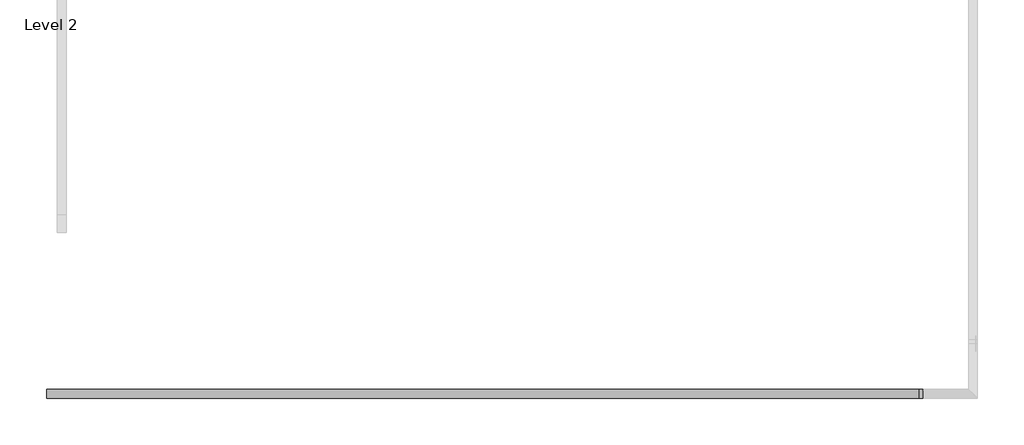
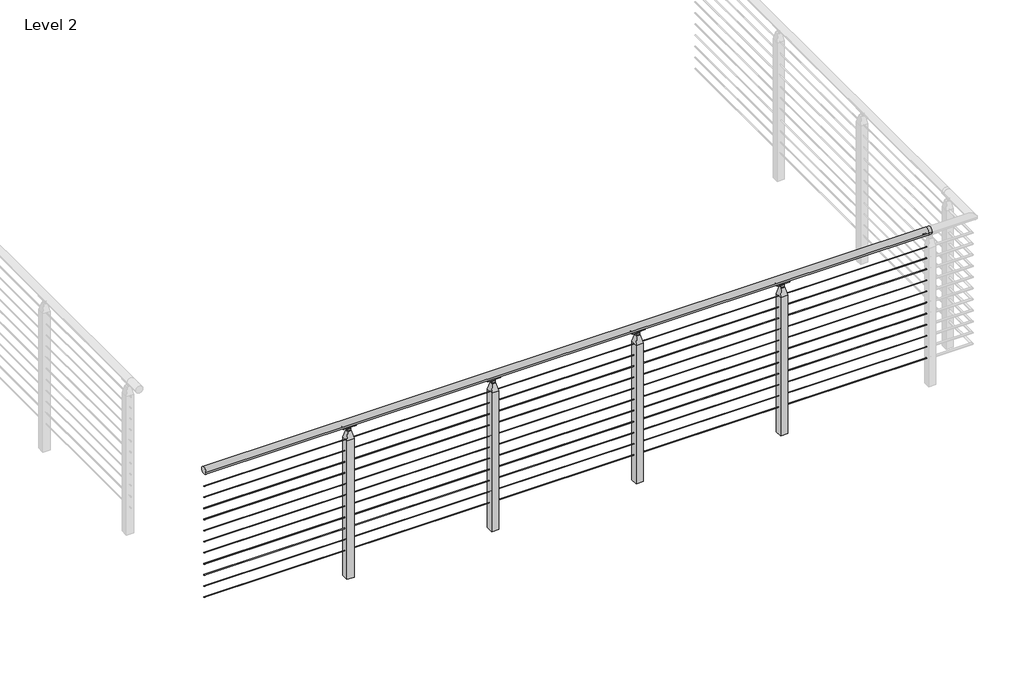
# One storey, part 11 of 17: 1 railing.
"""IFC4 building model written with IfcOpenShell, lengths in millimetres."""

from ifc_helpers import new_model, si_unit, point, frame, frame_2d, origin, place, context, project, spatial, polyline, circle_curve, trimmed, segment, composite_curve, outline, extrude, faceted_brep, element, save
from ifc_brep_helpers import plane_surface, cylinder_surface, revolved_surface, advanced_brep

model = new_model("IFC4")

# Units and contexts
model_context = context("Model", 3, world=origin())
ifc_project = project(units=[si_unit("LENGTHUNIT", "METRE", prefix="MILLI")], contexts=[model_context])

# Site, building, storey
site = spatial("IfcSite", under=ifc_project)
building = spatial("IfcBuilding", under=site)
storey = spatial("IfcBuildingStorey", under=building, Name="Level 2", Elevation=3048.0)

# Railing
placement = place(None, origin())
element("IfcRailing", 1, ObjectType="VIVA-CUBE-Cable-Weld Mount-Straight", at=placement, inside=storey, context=model_context, shape_type="SolidModel", body=[
    advanced_brep(
    [(41115.9167764, -52244.4426165, 4102.1), (41115.9167764, -52193.6426165, 4102.1), (46195.9167764, -52244.4426165, 4102.1), (46195.9167764, -52193.6426165, 4102.1), (46220.9199014, -52244.4426165, 4102.1), (46220.9199014, -52193.6426165, 4102.1)],
    [
        (0, 1, circle_curve(frame((41115.9167764, -52219.0426165, 4102.1), z_axis=(-1.0, 0.0, 0.0), x_axis=(0.0, 1.0, 0.0)), 25.4)),
        (1, 0, circle_curve(frame((41115.9167764, -52219.0426165, 4102.1), z_axis=(-1.0, 0.0, 0.0), x_axis=(0.0, 1.0, 0.0)), 25.4)),
        (0, 2),
        (2, 3, circle_curve(frame((46195.9167764, -52219.0426165, 4102.1), z_axis=(-1.0, 0.0, 0.0), x_axis=(0.0, 1.0, 0.0)), 25.4)),
        (3, 1),
        (3, 2, circle_curve(frame((46195.9167764, -52219.0426165, 4102.1), z_axis=(-1.0, 0.0, 0.0), x_axis=(0.0, 1.0, 0.0)), 25.4)),
        (4, 5, circle_curve(frame((46220.9199014, -52219.0426165, 4102.1), z_axis=(1.0, 0.0, 0.0), x_axis=(0.0, 1.0, 0.0)), 25.4)),
        (5, 4, circle_curve(frame((46220.9199014, -52219.0426165, 4102.1), z_axis=(1.0, 0.0, 0.0), x_axis=(0.0, 1.0, 0.0)), 25.4)),
        (2, 4),
        (5, 3),
    ],
    [
        plane_surface(frame((41115.9167764, -52219.0426165, 4127.5), z_axis=(-1.0, 0.0, 0.0), x_axis=(0.0, 1.0, 0.0))),
        cylinder_surface(frame((41115.9167764, -52219.0426165, 4102.1), z_axis=(-1.0, 0.0, 0.0), x_axis=(0.0, 1.0, 0.0)), 25.4),
        plane_surface(frame((46220.9199014, -52219.0426165, 4127.5), z_axis=(1.0, 0.0, 0.0), x_axis=(0.0, 1.0, 0.0))),
        cylinder_surface(frame((46195.9167764, -52219.0426165, 4102.1), z_axis=(-1.0, 0.0, 0.0), x_axis=(0.0, 1.0, 0.0)), 25.4),
    ],
    [
        (0, [[1, 2]]),
        (1, [[-1, 3, 4, 5]]),
        (1, [[-2, -5, 6, -3]]),
        (2, [[7, 8]]),
        (3, [[-4, 9, -8, 10]]),
        (3, [[-6, -10, -7, -9]]),
    ],
),
    extrude(outline(composite_curve([segment(trimmed(circle_curve(frame_2d((-52219.0426165, 3985.4124)), 2.3876), [point((-52216.6550165, 3985.4124))], [point((-52221.4302165, 3985.4124))], False, "CARTESIAN"), True, "CONTINUOUS"), segment(trimmed(circle_curve(frame_2d((-52219.0426165, 3985.4124)), 2.3876), [point((-52221.4302165, 3985.4124))], [point((-52216.6550165, 3985.4124))], False, "CARTESIAN"), True, "CONTINUOUS")], self_intersect=False)), frame((41115.9167764, 0.0, 0.0), z_axis=(1.0, 0.0, 0.0), x_axis=(0.0, 1.0, 0.0)), (0.0, 0.0, 1.0), 5080.0),
    extrude(outline(composite_curve([segment(trimmed(circle_curve(frame_2d((-52219.0426165, 3902.8624)), 2.3876), [point((-52216.6550165, 3902.8624))], [point((-52221.4302165, 3902.8624))], False, "CARTESIAN"), True, "CONTINUOUS"), segment(trimmed(circle_curve(frame_2d((-52219.0426165, 3902.8624)), 2.3876), [point((-52221.4302165, 3902.8624))], [point((-52216.6550165, 3902.8624))], False, "CARTESIAN"), True, "CONTINUOUS")], self_intersect=False)), frame((41115.9167764, 0.0, 0.0), z_axis=(1.0, 0.0, 0.0), x_axis=(0.0, 1.0, 0.0)), (0.0, 0.0, 1.0), 5080.0),
    extrude(outline(composite_curve([segment(trimmed(circle_curve(frame_2d((-52219.0426165, 3820.3124)), 2.3876), [point((-52216.6550165, 3820.3124))], [point((-52221.4302165, 3820.3124))], False, "CARTESIAN"), True, "CONTINUOUS"), segment(trimmed(circle_curve(frame_2d((-52219.0426165, 3820.3124)), 2.3876), [point((-52221.4302165, 3820.3124))], [point((-52216.6550165, 3820.3124))], False, "CARTESIAN"), True, "CONTINUOUS")], self_intersect=False)), frame((41115.9167764, 0.0, 0.0), z_axis=(1.0, 0.0, 0.0), x_axis=(0.0, 1.0, 0.0)), (0.0, 0.0, 1.0), 5080.0),
    extrude(outline(composite_curve([segment(trimmed(circle_curve(frame_2d((-52219.0426165, 3737.7624)), 2.3876), [point((-52216.6550165, 3737.7624))], [point((-52221.4302165, 3737.7624))], False, "CARTESIAN"), True, "CONTINUOUS"), segment(trimmed(circle_curve(frame_2d((-52219.0426165, 3737.7624)), 2.3876), [point((-52221.4302165, 3737.7624))], [point((-52216.6550165, 3737.7624))], False, "CARTESIAN"), True, "CONTINUOUS")], self_intersect=False)), frame((41115.9167764, 0.0, 0.0), z_axis=(1.0, 0.0, 0.0), x_axis=(0.0, 1.0, 0.0)), (0.0, 0.0, 1.0), 5080.0),
    extrude(outline(composite_curve([segment(trimmed(circle_curve(frame_2d((-52219.0426165, 3655.2124)), 2.3876), [point((-52216.6550165, 3655.2124))], [point((-52221.4302165, 3655.2124))], False, "CARTESIAN"), True, "CONTINUOUS"), segment(trimmed(circle_curve(frame_2d((-52219.0426165, 3655.2124)), 2.3876), [point((-52221.4302165, 3655.2124))], [point((-52216.6550165, 3655.2124))], False, "CARTESIAN"), True, "CONTINUOUS")], self_intersect=False)), frame((41115.9167764, 0.0, 0.0), z_axis=(1.0, 0.0, 0.0), x_axis=(0.0, 1.0, 0.0)), (0.0, 0.0, 1.0), 5080.0),
    extrude(outline(composite_curve([segment(trimmed(circle_curve(frame_2d((-52219.0426165, 3572.6624)), 2.3876), [point((-52216.6550165, 3572.6624))], [point((-52221.4302165, 3572.6624))], False, "CARTESIAN"), True, "CONTINUOUS"), segment(trimmed(circle_curve(frame_2d((-52219.0426165, 3572.6624)), 2.3876), [point((-52221.4302165, 3572.6624))], [point((-52216.6550165, 3572.6624))], False, "CARTESIAN"), True, "CONTINUOUS")], self_intersect=False)), frame((41115.9167764, 0.0, 0.0), z_axis=(1.0, 0.0, 0.0), x_axis=(0.0, 1.0, 0.0)), (0.0, 0.0, 1.0), 5080.0),
    extrude(outline(composite_curve([segment(trimmed(circle_curve(frame_2d((-52219.0426165, 3490.1124)), 2.3876), [point((-52216.6550165, 3490.1124))], [point((-52221.4302165, 3490.1124))], False, "CARTESIAN"), True, "CONTINUOUS"), segment(trimmed(circle_curve(frame_2d((-52219.0426165, 3490.1124)), 2.3876), [point((-52221.4302165, 3490.1124))], [point((-52216.6550165, 3490.1124))], False, "CARTESIAN"), True, "CONTINUOUS")], self_intersect=False)), frame((41115.9167764, 0.0, 0.0), z_axis=(1.0, 0.0, 0.0), x_axis=(0.0, 1.0, 0.0)), (0.0, 0.0, 1.0), 5080.0),
    extrude(outline(composite_curve([segment(trimmed(circle_curve(frame_2d((-52219.0426165, 3407.5624)), 2.3876), [point((-52216.6550165, 3407.5624))], [point((-52221.4302165, 3407.5624))], False, "CARTESIAN"), True, "CONTINUOUS"), segment(trimmed(circle_curve(frame_2d((-52219.0426165, 3407.5624)), 2.3876), [point((-52221.4302165, 3407.5624))], [point((-52216.6550165, 3407.5624))], False, "CARTESIAN"), True, "CONTINUOUS")], self_intersect=False)), frame((41115.9167764, 0.0, 0.0), z_axis=(1.0, 0.0, 0.0), x_axis=(0.0, 1.0, 0.0)), (0.0, 0.0, 1.0), 5080.0),
    extrude(outline(composite_curve([segment(trimmed(circle_curve(frame_2d((-52219.0426165, 3325.0124)), 2.3876), [point((-52216.6550165, 3325.0124))], [point((-52221.4302165, 3325.0124))], False, "CARTESIAN"), True, "CONTINUOUS"), segment(trimmed(circle_curve(frame_2d((-52219.0426165, 3325.0124)), 2.3876), [point((-52221.4302165, 3325.0124))], [point((-52216.6550165, 3325.0124))], False, "CARTESIAN"), True, "CONTINUOUS")], self_intersect=False)), frame((41115.9167764, 0.0, 0.0), z_axis=(1.0, 0.0, 0.0), x_axis=(0.0, 1.0, 0.0)), (0.0, 0.0, 1.0), 5080.0),
    extrude(outline(composite_curve([segment(trimmed(circle_curve(frame_2d((-52219.0426165, 3242.4624)), 2.3876), [point((-52216.6550165, 3242.4624))], [point((-52221.4302165, 3242.4624))], False, "CARTESIAN"), True, "CONTINUOUS"), segment(trimmed(circle_curve(frame_2d((-52219.0426165, 3242.4624)), 2.3876), [point((-52221.4302165, 3242.4624))], [point((-52216.6550165, 3242.4624))], False, "CARTESIAN"), True, "CONTINUOUS")], self_intersect=False)), frame((41115.9167764, 0.0, 0.0), z_axis=(1.0, 0.0, 0.0), x_axis=(0.0, 1.0, 0.0)), (0.0, 0.0, 1.0), 5080.0),
    extrude(outline(composite_curve([segment(trimmed(circle_curve(frame_2d((-52219.0426165, 3159.9124)), 2.3876), [point((-52216.6550165, 3159.9124))], [point((-52221.4302165, 3159.9124))], False, "CARTESIAN"), True, "CONTINUOUS"), segment(trimmed(circle_curve(frame_2d((-52219.0426165, 3159.9124)), 2.3876), [point((-52221.4302165, 3159.9124))], [point((-52216.6550165, 3159.9124))], False, "CARTESIAN"), True, "CONTINUOUS")], self_intersect=False)), frame((41115.9167764, 0.0, 0.0), z_axis=(1.0, 0.0, 0.0), x_axis=(0.0, 1.0, 0.0)), (0.0, 0.0, 1.0), 5080.0),
    faceted_brep([(45193.0136514, -52206.3426165, 4045.2902749), (45167.6136514, -52206.3426165, 4045.2902749), (45167.6136514, -52215.0738665, 4045.2902749), (45193.0136514, -52215.0738665, 4045.2902749), (45167.6136514, -52231.7426165, 4045.2902749), (45193.0136514, -52231.7426165, 4045.2902749), (45193.0136514, -52223.0113665, 4045.2902749), (45167.6136514, -52223.0113665, 4045.2902749), (45205.7136514, -52193.6426165, 3989.1347854), (45205.7136514, -52244.4426165, 3989.1347854), (45154.9136514, -52193.6426165, 3989.1347854), (45154.9136514, -52244.4426165, 3989.1347854), (45205.7136514, -52193.6426165, 2959.1), (45205.7136514, -52244.4426165, 2959.1), (45154.9136514, -52244.4426165, 2959.1), (45154.9136514, -52193.6426165, 2959.1), (45167.6136514, -52223.0113665, 4057.3306013), (45193.0136514, -52223.0113665, 4057.3306013), (45193.0136514, -52215.0738665, 4057.3306013), (45167.6136514, -52215.0738665, 4057.3306013)], [[[0, 1, 2, 3]], [[4, 5, 6, 7]], [[8, 0, 3, 6, 5, 9]], [[1, 0, 8, 10]], [[1, 10, 11, 4, 7, 2]], [[5, 4, 11, 9]], [[12, 13, 14, 15]], [[12, 15, 10, 8]], [[15, 14, 11, 10]], [[14, 13, 9, 11]], [[13, 12, 8, 9]], [[16, 17, 18, 19]], [[17, 16, 7, 6]], [[18, 17, 6, 3]], [[19, 18, 3, 2]], [[16, 19, 2, 7]]]),
    extrude(outline(composite_curve([segment(trimmed(circle_curve(frame_2d((-52218.9458882, 4102.1433184)), 25.4345159), [point((-52231.5096911, 4080.0284941))], [point((-52206.5506544, 4079.9335733))], True, "CARTESIAN"), True, "CONTINUOUS"), segment(trimmed(circle_curve(frame_2d((-52205.3060013, 4077.4310885)), 2.7949225), [point((-52206.5506544, 4079.9335733))], [point((-52203.8286962, 4075.0585031))], False, "CARTESIAN"), True, "CONTINUOUS"), segment(trimmed(circle_curve(frame_2d((-52219.0793513, 4102.905945)), 31.75), [point((-52203.8286962, 4075.0585031))], [point((-52235.3455885, 4075.6392616))], False, "CARTESIAN"), True, "CONTINUOUS"), segment(trimmed(circle_curve(frame_2d((-52233.0572487, 4077.5101807)), 2.9558141), [point((-52235.3455885, 4075.6392616))], [point((-52231.5096911, 4080.0284941))], False, "CARTESIAN"), True, "CONTINUOUS")], self_intersect=False)), frame((45135.0762514, 0.0, 0.0), z_axis=(1.0, 0.0, 0.0), x_axis=(0.0, 1.0, 0.0)), (0.0, 0.0, 1.0), 90.4748),
    advanced_brep(
    [(45207.3815662, -52216.5026165, 4071.3685171), (45193.0136514, -52216.5026165, 4057.0006022), (45167.6136514, -52216.5026165, 4057.0006022), (45153.2457365, -52216.5026165, 4071.3685171), (45207.3815662, -52221.5826165, 4071.3685171), (45153.2457365, -52221.5826165, 4071.3685171), (45167.6136514, -52221.5826165, 4057.0006022), (45193.0136514, -52221.5826165, 4057.0006022)],
    [
        (0, 1, circle_curve(frame((45207.3815662, -52216.5026165, 4057.0006022), z_axis=(0.0, -1.0, 0.0), x_axis=(-1.0, 0.0, 0.0)), 14.3679149)),
        (1, 2, circle_curve(frame((45180.3136514, -52216.5026165, 4057.0006022), z_axis=(0.0, 1.0, 0.0), x_axis=(-1.0, 0.0, 0.0)), 12.7)),
        (2, 3, circle_curve(frame((45153.2457365, -52216.5026165, 4057.0006022), z_axis=(0.0, -1.0, 0.0), x_axis=(-1.0, 0.0, 0.0)), 14.3679149)),
        (3, 0),
        (4, 5),
        (5, 6, circle_curve(frame((45153.2457365, -52221.5826165, 4057.0006022), z_axis=(0.0, 1.0, 0.0), x_axis=(-1.0, 0.0, 0.0)), 14.3679149)),
        (6, 7, circle_curve(frame((45180.3136514, -52221.5826165, 4057.0006022), z_axis=(0.0, -1.0, 0.0), x_axis=(-1.0, 0.0, 0.0)), 12.7)),
        (7, 4, circle_curve(frame((45207.3815662, -52221.5826165, 4057.0006022), z_axis=(0.0, 1.0, 0.0), x_axis=(-1.0, 0.0, 0.0)), 14.3679149)),
        (0, 4),
        (7, 1),
        (6, 2),
        (5, 3),
    ],
    [
        plane_surface(frame((45193.0136514, -52216.5026165, 4057.0006022), z_axis=(0.0, 1.0, 0.0), x_axis=(0.0, 0.0, -1.0))),
        plane_surface(frame((45193.0136514, -52221.5826165, 4057.0006022), z_axis=(0.0, -1.0, 0.0), x_axis=(0.0, 0.0, 1.0))),
        revolved_surface(polyline([(45193.013651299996, -52221.5826165, 4057.0006022), (45193.013651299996, -52216.5026165, 4057.0006022)]), (45207.3815662, -52221.5826165, 4057.0006022), (0.0, -1.0, 0.0)),
        cylinder_surface(frame((45180.3136514, -52221.5826165, 4057.0006022), z_axis=(0.0, 1.0, 0.0), x_axis=(-1.0, 0.0, 0.0)), 12.7),
        revolved_surface(polyline([(45138.8778216, -52221.5826165, 4057.0006022), (45138.8778216, -52216.5026165, 4057.0006022)]), (45153.2457365, -52221.5826165, 4057.0006022), (0.0, -1.0, 0.0)),
        plane_surface(frame((45153.2457365, -52216.5026165, 4071.3685171), z_axis=(0.0, 0.0, 1.0), x_axis=(0.0, -1.0, 0.0))),
    ],
    [
        (0, [[1, 2, 3, 4]]),
        (1, [[5, 6, 7, 8]]),
        (2, [[-1, 9, -8, 10]]),
        (3, [[-2, -10, -7, 11]]),
        (4, [[-3, -11, -6, 12]]),
        (5, [[-4, -12, -5, -9]]),
    ],
),
    faceted_brep([(44177.0136514, -52206.3426165, 4045.2902749), (44151.6136514, -52206.3426165, 4045.2902749), (44151.6136514, -52215.0738665, 4045.2902749), (44177.0136514, -52215.0738665, 4045.2902749), (44151.6136514, -52231.7426165, 4045.2902749), (44177.0136514, -52231.7426165, 4045.2902749), (44177.0136514, -52223.0113665, 4045.2902749), (44151.6136514, -52223.0113665, 4045.2902749), (44189.7136514, -52193.6426165, 3989.1347854), (44189.7136514, -52244.4426165, 3989.1347854), (44138.9136514, -52193.6426165, 3989.1347854), (44138.9136514, -52244.4426165, 3989.1347854), (44189.7136514, -52193.6426165, 2959.1), (44189.7136514, -52244.4426165, 2959.1), (44138.9136514, -52244.4426165, 2959.1), (44138.9136514, -52193.6426165, 2959.1), (44151.6136514, -52223.0113665, 4057.3306013), (44177.0136514, -52223.0113665, 4057.3306013), (44177.0136514, -52215.0738665, 4057.3306013), (44151.6136514, -52215.0738665, 4057.3306013)], [[[0, 1, 2, 3]], [[4, 5, 6, 7]], [[8, 0, 3, 6, 5, 9]], [[1, 0, 8, 10]], [[1, 10, 11, 4, 7, 2]], [[5, 4, 11, 9]], [[12, 13, 14, 15]], [[12, 15, 10, 8]], [[15, 14, 11, 10]], [[14, 13, 9, 11]], [[13, 12, 8, 9]], [[16, 17, 18, 19]], [[17, 16, 7, 6]], [[18, 17, 6, 3]], [[19, 18, 3, 2]], [[16, 19, 2, 7]]]),
    extrude(outline(composite_curve([segment(trimmed(circle_curve(frame_2d((-52218.9458882, 4102.1433184)), 25.4345159), [point((-52231.5096911, 4080.0284941))], [point((-52206.5506544, 4079.9335733))], True, "CARTESIAN"), True, "CONTINUOUS"), segment(trimmed(circle_curve(frame_2d((-52205.3060013, 4077.4310885)), 2.7949225), [point((-52206.5506544, 4079.9335733))], [point((-52203.8286962, 4075.0585031))], False, "CARTESIAN"), True, "CONTINUOUS"), segment(trimmed(circle_curve(frame_2d((-52219.0793513, 4102.905945)), 31.75), [point((-52203.8286962, 4075.0585031))], [point((-52235.3455885, 4075.6392616))], False, "CARTESIAN"), True, "CONTINUOUS"), segment(trimmed(circle_curve(frame_2d((-52233.0572487, 4077.5101807)), 2.9558141), [point((-52235.3455885, 4075.6392616))], [point((-52231.5096911, 4080.0284941))], False, "CARTESIAN"), True, "CONTINUOUS")], self_intersect=False)), frame((44119.0762514, 0.0, 0.0), z_axis=(1.0, 0.0, 0.0), x_axis=(0.0, 1.0, 0.0)), (0.0, 0.0, 1.0), 90.4748),
    advanced_brep(
    [(44191.3815662, -52216.5026165, 4071.3685171), (44177.0136514, -52216.5026165, 4057.0006022), (44151.6136514, -52216.5026165, 4057.0006022), (44137.2457365, -52216.5026165, 4071.3685171), (44191.3815662, -52221.5826165, 4071.3685171), (44137.2457365, -52221.5826165, 4071.3685171), (44151.6136514, -52221.5826165, 4057.0006022), (44177.0136514, -52221.5826165, 4057.0006022)],
    [
        (0, 1, circle_curve(frame((44191.3815662, -52216.5026165, 4057.0006022), z_axis=(0.0, -1.0, 0.0), x_axis=(-1.0, 0.0, 0.0)), 14.3679149)),
        (1, 2, circle_curve(frame((44164.3136514, -52216.5026165, 4057.0006022), z_axis=(0.0, 1.0, 0.0), x_axis=(-1.0, 0.0, 0.0)), 12.7)),
        (2, 3, circle_curve(frame((44137.2457365, -52216.5026165, 4057.0006022), z_axis=(0.0, -1.0, 0.0), x_axis=(-1.0, 0.0, 0.0)), 14.3679149)),
        (3, 0),
        (4, 5),
        (5, 6, circle_curve(frame((44137.2457365, -52221.5826165, 4057.0006022), z_axis=(0.0, 1.0, 0.0), x_axis=(-1.0, 0.0, 0.0)), 14.3679149)),
        (6, 7, circle_curve(frame((44164.3136514, -52221.5826165, 4057.0006022), z_axis=(0.0, -1.0, 0.0), x_axis=(-1.0, 0.0, 0.0)), 12.7)),
        (7, 4, circle_curve(frame((44191.3815662, -52221.5826165, 4057.0006022), z_axis=(0.0, 1.0, 0.0), x_axis=(-1.0, 0.0, 0.0)), 14.3679149)),
        (0, 4),
        (7, 1),
        (6, 2),
        (5, 3),
    ],
    [
        plane_surface(frame((44177.0136514, -52216.5026165, 4057.0006022), z_axis=(0.0, 1.0, 0.0), x_axis=(0.0, 0.0, -1.0))),
        plane_surface(frame((44177.0136514, -52221.5826165, 4057.0006022), z_axis=(0.0, -1.0, 0.0), x_axis=(0.0, 0.0, 1.0))),
        revolved_surface(polyline([(44177.013651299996, -52221.5826165, 4057.0006022), (44177.013651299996, -52216.5026165, 4057.0006022)]), (44191.3815662, -52221.5826165, 4057.0006022), (0.0, -1.0, 0.0)),
        cylinder_surface(frame((44164.3136514, -52221.5826165, 4057.0006022), z_axis=(0.0, 1.0, 0.0), x_axis=(-1.0, 0.0, 0.0)), 12.7),
        revolved_surface(polyline([(44122.8778216, -52221.5826165, 4057.0006022), (44122.8778216, -52216.5026165, 4057.0006022)]), (44137.2457365, -52221.5826165, 4057.0006022), (0.0, -1.0, 0.0)),
        plane_surface(frame((44137.2457365, -52216.5026165, 4071.3685171), z_axis=(0.0, 0.0, 1.0), x_axis=(0.0, -1.0, 0.0))),
    ],
    [
        (0, [[1, 2, 3, 4]]),
        (1, [[5, 6, 7, 8]]),
        (2, [[-1, 9, -8, 10]]),
        (3, [[-2, -10, -7, 11]]),
        (4, [[-3, -11, -6, 12]]),
        (5, [[-4, -12, -5, -9]]),
    ],
),
    faceted_brep([(43161.0136514, -52206.3426165, 4045.2902749), (43135.6136514, -52206.3426165, 4045.2902749), (43135.6136514, -52215.0738665, 4045.2902749), (43161.0136514, -52215.0738665, 4045.2902749), (43135.6136514, -52231.7426165, 4045.2902749), (43161.0136514, -52231.7426165, 4045.2902749), (43161.0136514, -52223.0113665, 4045.2902749), (43135.6136514, -52223.0113665, 4045.2902749), (43173.7136514, -52193.6426165, 3989.1347854), (43173.7136514, -52244.4426165, 3989.1347854), (43122.9136514, -52193.6426165, 3989.1347854), (43122.9136514, -52244.4426165, 3989.1347854), (43173.7136514, -52193.6426165, 2959.1), (43173.7136514, -52244.4426165, 2959.1), (43122.9136514, -52244.4426165, 2959.1), (43122.9136514, -52193.6426165, 2959.1), (43135.6136514, -52223.0113665, 4057.3306013), (43161.0136514, -52223.0113665, 4057.3306013), (43161.0136514, -52215.0738665, 4057.3306013), (43135.6136514, -52215.0738665, 4057.3306013)], [[[0, 1, 2, 3]], [[4, 5, 6, 7]], [[8, 0, 3, 6, 5, 9]], [[1, 0, 8, 10]], [[1, 10, 11, 4, 7, 2]], [[5, 4, 11, 9]], [[12, 13, 14, 15]], [[12, 15, 10, 8]], [[15, 14, 11, 10]], [[14, 13, 9, 11]], [[13, 12, 8, 9]], [[16, 17, 18, 19]], [[17, 16, 7, 6]], [[18, 17, 6, 3]], [[19, 18, 3, 2]], [[16, 19, 2, 7]]]),
    extrude(outline(composite_curve([segment(trimmed(circle_curve(frame_2d((-52218.9458882, 4102.1433184)), 25.4345159), [point((-52231.5096911, 4080.0284941))], [point((-52206.5506544, 4079.9335733))], True, "CARTESIAN"), True, "CONTINUOUS"), segment(trimmed(circle_curve(frame_2d((-52205.3060013, 4077.4310885)), 2.7949225), [point((-52206.5506544, 4079.9335733))], [point((-52203.8286962, 4075.0585031))], False, "CARTESIAN"), True, "CONTINUOUS"), segment(trimmed(circle_curve(frame_2d((-52219.0793513, 4102.905945)), 31.75), [point((-52203.8286962, 4075.0585031))], [point((-52235.3455885, 4075.6392616))], False, "CARTESIAN"), True, "CONTINUOUS"), segment(trimmed(circle_curve(frame_2d((-52233.0572487, 4077.5101807)), 2.9558141), [point((-52235.3455885, 4075.6392616))], [point((-52231.5096911, 4080.0284941))], False, "CARTESIAN"), True, "CONTINUOUS")], self_intersect=False)), frame((43103.0762514, 0.0, 0.0), z_axis=(1.0, 0.0, 0.0), x_axis=(0.0, 1.0, 0.0)), (0.0, 0.0, 1.0), 90.4748),
    advanced_brep(
    [(43175.3815662, -52216.5026165, 4071.3685171), (43161.0136514, -52216.5026165, 4057.0006022), (43135.6136514, -52216.5026165, 4057.0006022), (43121.2457365, -52216.5026165, 4071.3685171), (43175.3815662, -52221.5826165, 4071.3685171), (43121.2457365, -52221.5826165, 4071.3685171), (43135.6136514, -52221.5826165, 4057.0006022), (43161.0136514, -52221.5826165, 4057.0006022)],
    [
        (0, 1, circle_curve(frame((43175.3815662, -52216.5026165, 4057.0006022), z_axis=(0.0, -1.0, 0.0), x_axis=(-1.0, 0.0, 0.0)), 14.3679149)),
        (1, 2, circle_curve(frame((43148.3136514, -52216.5026165, 4057.0006022), z_axis=(0.0, 1.0, 0.0), x_axis=(-1.0, 0.0, 0.0)), 12.7)),
        (2, 3, circle_curve(frame((43121.2457365, -52216.5026165, 4057.0006022), z_axis=(0.0, -1.0, 0.0), x_axis=(-1.0, 0.0, 0.0)), 14.3679149)),
        (3, 0),
        (4, 5),
        (5, 6, circle_curve(frame((43121.2457365, -52221.5826165, 4057.0006022), z_axis=(0.0, 1.0, 0.0), x_axis=(-1.0, 0.0, 0.0)), 14.3679149)),
        (6, 7, circle_curve(frame((43148.3136514, -52221.5826165, 4057.0006022), z_axis=(0.0, -1.0, 0.0), x_axis=(-1.0, 0.0, 0.0)), 12.7)),
        (7, 4, circle_curve(frame((43175.3815662, -52221.5826165, 4057.0006022), z_axis=(0.0, 1.0, 0.0), x_axis=(-1.0, 0.0, 0.0)), 14.3679149)),
        (0, 4),
        (7, 1),
        (6, 2),
        (5, 3),
    ],
    [
        plane_surface(frame((43161.0136514, -52216.5026165, 4057.0006022), z_axis=(0.0, 1.0, 0.0), x_axis=(0.0, 0.0, -1.0))),
        plane_surface(frame((43161.0136514, -52221.5826165, 4057.0006022), z_axis=(0.0, -1.0, 0.0), x_axis=(0.0, 0.0, 1.0))),
        revolved_surface(polyline([(43161.013651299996, -52221.5826165, 4057.0006022), (43161.013651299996, -52216.5026165, 4057.0006022)]), (43175.3815662, -52221.5826165, 4057.0006022), (0.0, -1.0, 0.0)),
        cylinder_surface(frame((43148.3136514, -52221.5826165, 4057.0006022), z_axis=(0.0, 1.0, 0.0), x_axis=(-1.0, 0.0, 0.0)), 12.7),
        revolved_surface(polyline([(43106.8778216, -52221.5826165, 4057.0006022), (43106.8778216, -52216.5026165, 4057.0006022)]), (43121.2457365, -52221.5826165, 4057.0006022), (0.0, -1.0, 0.0)),
        plane_surface(frame((43121.2457365, -52216.5026165, 4071.3685171), z_axis=(0.0, 0.0, 1.0), x_axis=(0.0, -1.0, 0.0))),
    ],
    [
        (0, [[1, 2, 3, 4]]),
        (1, [[5, 6, 7, 8]]),
        (2, [[-1, 9, -8, 10]]),
        (3, [[-2, -10, -7, 11]]),
        (4, [[-3, -11, -6, 12]]),
        (5, [[-4, -12, -5, -9]]),
    ],
),
    faceted_brep([(42145.0136514, -52206.3426165, 4045.2902749), (42119.6136514, -52206.3426165, 4045.2902749), (42119.6136514, -52215.0738665, 4045.2902749), (42145.0136514, -52215.0738665, 4045.2902749), (42119.6136514, -52231.7426165, 4045.2902749), (42145.0136514, -52231.7426165, 4045.2902749), (42145.0136514, -52223.0113665, 4045.2902749), (42119.6136514, -52223.0113665, 4045.2902749), (42157.7136514, -52193.6426165, 3989.1347854), (42157.7136514, -52244.4426165, 3989.1347854), (42106.9136514, -52193.6426165, 3989.1347854), (42106.9136514, -52244.4426165, 3989.1347854), (42157.7136514, -52193.6426165, 2959.1), (42157.7136514, -52244.4426165, 2959.1), (42106.9136514, -52244.4426165, 2959.1), (42106.9136514, -52193.6426165, 2959.1), (42119.6136514, -52223.0113665, 4057.3306013), (42145.0136514, -52223.0113665, 4057.3306013), (42145.0136514, -52215.0738665, 4057.3306013), (42119.6136514, -52215.0738665, 4057.3306013)], [[[0, 1, 2, 3]], [[4, 5, 6, 7]], [[8, 0, 3, 6, 5, 9]], [[1, 0, 8, 10]], [[1, 10, 11, 4, 7, 2]], [[5, 4, 11, 9]], [[12, 13, 14, 15]], [[12, 15, 10, 8]], [[15, 14, 11, 10]], [[14, 13, 9, 11]], [[13, 12, 8, 9]], [[16, 17, 18, 19]], [[17, 16, 7, 6]], [[18, 17, 6, 3]], [[19, 18, 3, 2]], [[16, 19, 2, 7]]]),
    extrude(outline(composite_curve([segment(trimmed(circle_curve(frame_2d((-52218.9458882, 4102.1433184)), 25.4345159), [point((-52231.5096911, 4080.0284941))], [point((-52206.5506544, 4079.9335733))], True, "CARTESIAN"), True, "CONTINUOUS"), segment(trimmed(circle_curve(frame_2d((-52205.3060013, 4077.4310885)), 2.7949225), [point((-52206.5506544, 4079.9335733))], [point((-52203.8286962, 4075.0585031))], False, "CARTESIAN"), True, "CONTINUOUS"), segment(trimmed(circle_curve(frame_2d((-52219.0793513, 4102.905945)), 31.75), [point((-52203.8286962, 4075.0585031))], [point((-52235.3455885, 4075.6392616))], False, "CARTESIAN"), True, "CONTINUOUS"), segment(trimmed(circle_curve(frame_2d((-52233.0572487, 4077.5101807)), 2.9558141), [point((-52235.3455885, 4075.6392616))], [point((-52231.5096911, 4080.0284941))], False, "CARTESIAN"), True, "CONTINUOUS")], self_intersect=False)), frame((42087.0762514, 0.0, 0.0), z_axis=(1.0, 0.0, 0.0), x_axis=(0.0, 1.0, 0.0)), (0.0, 0.0, 1.0), 90.4748),
    advanced_brep(
    [(42159.3815662, -52216.5026165, 4071.3685171), (42145.0136514, -52216.5026165, 4057.0006022), (42119.6136514, -52216.5026165, 4057.0006022), (42105.2457365, -52216.5026165, 4071.3685171), (42159.3815662, -52221.5826165, 4071.3685171), (42105.2457365, -52221.5826165, 4071.3685171), (42119.6136514, -52221.5826165, 4057.0006022), (42145.0136514, -52221.5826165, 4057.0006022)],
    [
        (0, 1, circle_curve(frame((42159.3815662, -52216.5026165, 4057.0006022), z_axis=(0.0, -1.0, 0.0), x_axis=(-1.0, 0.0, 0.0)), 14.3679149)),
        (1, 2, circle_curve(frame((42132.3136514, -52216.5026165, 4057.0006022), z_axis=(0.0, 1.0, 0.0), x_axis=(-1.0, 0.0, 0.0)), 12.7)),
        (2, 3, circle_curve(frame((42105.2457365, -52216.5026165, 4057.0006022), z_axis=(0.0, -1.0, 0.0), x_axis=(-1.0, 0.0, 0.0)), 14.3679149)),
        (3, 0),
        (4, 5),
        (5, 6, circle_curve(frame((42105.2457365, -52221.5826165, 4057.0006022), z_axis=(0.0, 1.0, 0.0), x_axis=(-1.0, 0.0, 0.0)), 14.3679149)),
        (6, 7, circle_curve(frame((42132.3136514, -52221.5826165, 4057.0006022), z_axis=(0.0, -1.0, 0.0), x_axis=(-1.0, 0.0, 0.0)), 12.7)),
        (7, 4, circle_curve(frame((42159.3815662, -52221.5826165, 4057.0006022), z_axis=(0.0, 1.0, 0.0), x_axis=(-1.0, 0.0, 0.0)), 14.3679149)),
        (0, 4),
        (7, 1),
        (6, 2),
        (5, 3),
    ],
    [
        plane_surface(frame((42145.0136514, -52216.5026165, 4057.0006022), z_axis=(0.0, 1.0, 0.0), x_axis=(0.0, 0.0, -1.0))),
        plane_surface(frame((42145.0136514, -52221.5826165, 4057.0006022), z_axis=(0.0, -1.0, 0.0), x_axis=(0.0, 0.0, 1.0))),
        revolved_surface(polyline([(42145.013651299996, -52221.5826165, 4057.0006022), (42145.013651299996, -52216.5026165, 4057.0006022)]), (42159.3815662, -52221.5826165, 4057.0006022), (0.0, -1.0, 0.0)),
        cylinder_surface(frame((42132.3136514, -52221.5826165, 4057.0006022), z_axis=(0.0, 1.0, 0.0), x_axis=(-1.0, 0.0, 0.0)), 12.7),
        revolved_surface(polyline([(42090.8778216, -52221.5826165, 4057.0006022), (42090.8778216, -52216.5026165, 4057.0006022)]), (42105.2457365, -52221.5826165, 4057.0006022), (0.0, -1.0, 0.0)),
        plane_surface(frame((42105.2457365, -52216.5026165, 4071.3685171), z_axis=(0.0, 0.0, 1.0), x_axis=(0.0, -1.0, 0.0))),
    ],
    [
        (0, [[1, 2, 3, 4]]),
        (1, [[5, 6, 7, 8]]),
        (2, [[-1, 9, -8, 10]]),
        (3, [[-2, -10, -7, 11]]),
        (4, [[-3, -11, -6, 12]]),
        (5, [[-4, -12, -5, -9]]),
    ],
),
])

save(model, "model.ifc")
